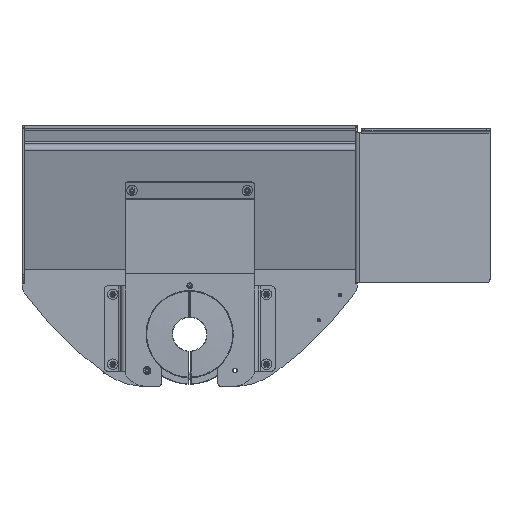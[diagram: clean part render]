
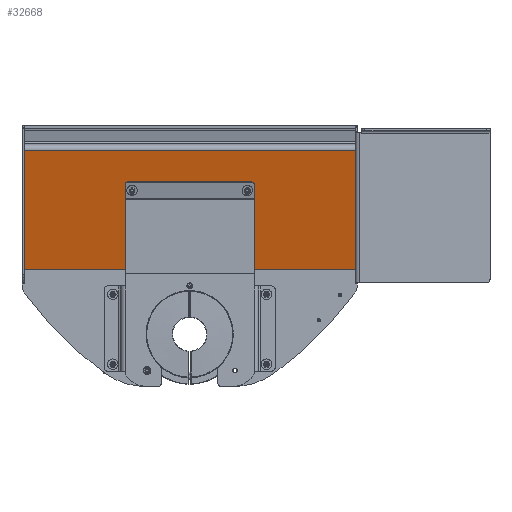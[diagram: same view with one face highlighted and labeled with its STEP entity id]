
A CAD part, front view. The second image highlights one B-rep face of the part: STEP entity #32668.
In plain terms, the highlighted planar face has unit normal (0, -0.966, -0.259) as drawn and (0, -0.259, 0.966) by its records, which use the part's own axes.
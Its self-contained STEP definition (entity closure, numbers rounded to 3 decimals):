
#31071=DIRECTION('',(-1.,0.,0.));
#31072=VECTOR('',#31071,474.);
#31073=CARTESIAN_POINT('',(237.,170.587,45.709));
#31074=LINE('',#31073,#31072);
#31078=DIRECTION('',(0.,-0.966,-0.259));
#31079=VECTOR('',#31078,176.21);
#31080=CARTESIAN_POINT('',(237.,170.587,45.709));
#31081=LINE('',#31080,#31079);
#31085=DIRECTION('',(1.,0.,0.));
#31086=VECTOR('',#31085,474.);
#31087=CARTESIAN_POINT('',(-237.,0.381,0.102));
#31088=LINE('',#31087,#31086);
#31092=DIRECTION('',(0.,-0.966,-0.259));
#31093=VECTOR('',#31092,176.21);
#31094=CARTESIAN_POINT('',(-237.,170.587,45.709));
#31095=LINE('',#31094,#31093);
#31099=CARTESIAN_POINT('',(82.5,114.177,30.594));
#31100=DIRECTION('',(0.,0.259,-0.966));
#31101=DIRECTION('',(0.,0.966,0.259));
#31102=AXIS2_PLACEMENT_3D('',#31099,#31100,#31101);
#31107=CARTESIAN_POINT('',(82.5,114.177,30.594));
#31108=DIRECTION('',(0.,0.259,-0.966));
#31109=DIRECTION('',(0.,-0.966,-0.259));
#31110=AXIS2_PLACEMENT_3D('',#31107,#31108,#31109);
#31115=CARTESIAN_POINT('',(-82.5,114.177,30.594));
#31116=DIRECTION('',(0.,0.259,-0.966));
#31117=DIRECTION('',(0.,0.966,0.259));
#31118=AXIS2_PLACEMENT_3D('',#31115,#31116,#31117);
#31123=CARTESIAN_POINT('',(-82.5,114.177,30.594));
#31124=DIRECTION('',(0.,0.259,-0.966));
#31125=DIRECTION('',(0.,-0.966,
-0.259));
#31126=AXIS2_PLACEMENT_3D('',#31123,#31124,#31125);
#31617=CARTESIAN_POINT('',(-237.,0.381,0.102));
#31618=CARTESIAN_POINT('',(237.,0.381,0.102));
#31619=VERTEX_POINT('',#31617);
#31620=VERTEX_POINT('',#31618);
#31693=CARTESIAN_POINT('',(237.,170.587,45.709));
#31694=CARTESIAN_POINT('',(-237.,170.587,45.709));
#31695=VERTEX_POINT('',#31693);
#31696=VERTEX_POINT('',#31694);
#31741=CARTESIAN_POINT('',(82.5,116.592,31.241));
#31742=CARTESIAN_POINT('',(82.5,111.762,29.947));
#31743=VERTEX_POINT('',#31741);
#31744=VERTEX_POINT('',#31742);
#31749=CARTESIAN_POINT('',(-82.5,116.592,31.241));
#31750=CARTESIAN_POINT('',(-82.5,111.762,29.947));
#31751=VERTEX_POINT('',#31749);
#31752=VERTEX_POINT('',#31750);
#32644=CARTESIAN_POINT('',(-240.,176.383,47.262));
#32645=DIRECTION('',(0.,-0.259,0.966));
#32646=DIRECTION('',(0.,-0.966,-0.259));
#32647=AXIS2_PLACEMENT_3D('',#32644,#32645,#32646);
#32648=PLANE('',#32647);
#32650=ORIENTED_EDGE('',*,*,#32649,.F.);
#32651=ORIENTED_EDGE('',*,*,#32223,.T.);
#32652=ORIENTED_EDGE('',*,*,#32629,.F.);
#32653=ORIENTED_EDGE('',*,*,#32177,.F.);
#32654=EDGE_LOOP('',(#32650,#32651,#32652,#32653));
#32655=FACE_OUTER_BOUND('',#32654,.F.);
#32657=ORIENTED_EDGE('',*,*,#32656,.F.);
#32659=ORIENTED_EDGE('',*,*,#32658,.F.);
#32660=EDGE_LOOP('',(#32657,#32659));
#32661=FACE_BOUND('',#32660,.F.);
#32663=ORIENTED_EDGE('',*,*,#32662,.F.);
#32665=ORIENTED_EDGE('',*,*,#32664,.F.);
#32666=EDGE_LOOP('',(#32663,#32665));
#32667=FACE_BOUND('',#32666,.F.);
#31103=CIRCLE('',#31102,2.5);
#31111=CIRCLE('',#31110,2.5);
#31119=CIRCLE('',#31118,2.5);
#31127=CIRCLE('',#31126,2.5);
#32177=EDGE_CURVE('',#31696,#31619,#31095,.T.);
#32223=EDGE_CURVE('',#31695,#31620,#31081,.T.);
#32629=EDGE_CURVE('',#31619,#31620,#31088,.T.);
#32649=EDGE_CURVE('',#31695,#31696,#31074,.T.);
#32656=EDGE_CURVE('',#31743,#31744,#31103,.T.);
#32658=EDGE_CURVE('',#31744,#31743,#31111,.T.);
#32662=EDGE_CURVE('',#31751,#31752,#31119,.T.);
#32664=EDGE_CURVE('',#31752,#31751,#31127,.T.);
#32668=ADVANCED_FACE('',(#32655,#32661,#32667),#32648,.T.);
